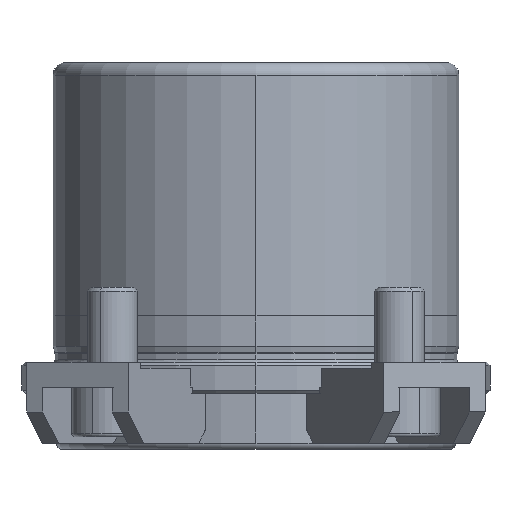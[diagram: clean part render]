
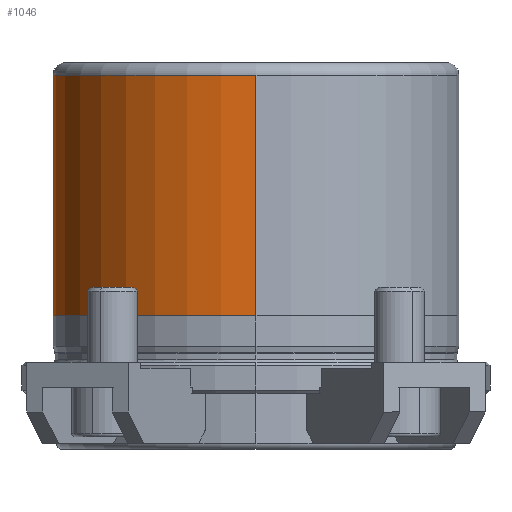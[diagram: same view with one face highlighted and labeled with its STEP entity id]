
A CAD part, left-side view. The second image highlights one B-rep face of the part: STEP entity #1046.
In plain terms, the highlighted cylindrical face has radius 32.495 mm (diameter 64.99 mm), a partial arc.
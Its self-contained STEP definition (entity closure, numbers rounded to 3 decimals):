
#949=CARTESIAN_POINT('',(0.0,0.,26.7));
#950=DIRECTION('',(0.0,0.,-1.0));
#951=DIRECTION('',(1.0,0.0,0.0));
#952=AXIS2_PLACEMENT_3D('',#949,#950,#951);
#953=CYLINDRICAL_SURFACE('',#952,32.495);
#954=CARTESIAN_POINT('',(32.495,0.,7.4));
#955=VERTEX_POINT('',#954);
#956=CARTESIAN_POINT('',(32.495,0.,17.4));
#957=VERTEX_POINT('',#956);
#958=CARTESIAN_POINT('',(32.495,0.,7.4));
#959=DIRECTION('',(0.0,0.0,1.0));
#960=VECTOR('',#959,10.);
#961=LINE('',#958,#960);
#962=EDGE_CURVE('',#955,#957,#961,.T.);
#963=ORIENTED_EDGE('',*,*,#962,.F.);
#964=CARTESIAN_POINT('',(-32.495,0.,7.4));
#965=VERTEX_POINT('',#964);
#966=CARTESIAN_POINT('',(0.0,0.,7.4));
#967=DIRECTION('',(0.0,0.0,-1.0));
#968=DIRECTION('',(1.0,0.0,0.0));
#969=AXIS2_PLACEMENT_3D('',#966,#967,#968);
#970=CIRCLE('',#969,32.495);
#971=EDGE_CURVE('',#965,#955,#970,.T.);
#972=ORIENTED_EDGE('',*,*,#971,.F.);
#973=CARTESIAN_POINT('',(-32.495,0.,46.0));
#974=VERTEX_POINT('',#973);
#975=CARTESIAN_POINT('',(-32.495,0.,7.4));
#976=DIRECTION('',(0.0,0.0,1.0));
#977=VECTOR('',#976,38.6);
#978=LINE('',#975,#977);
#979=EDGE_CURVE('',#965,#974,#978,.T.);
#980=ORIENTED_EDGE('',*,*,#979,.T.);
#981=CARTESIAN_POINT('',(0.0,32.495,46.));
#982=VERTEX_POINT('',#981);
#983=CARTESIAN_POINT('',(0.0,0.,46.0));
#984=DIRECTION('',(0.0,0.0,-1.0));
#985=DIRECTION('',(1.0,0.0,0.0));
#986=AXIS2_PLACEMENT_3D('',#983,#984,#985);
#987=CIRCLE('',#986,32.495);
#988=EDGE_CURVE('',#974,#982,#987,.T.);
#989=ORIENTED_EDGE('',*,*,#988,.T.);
#990=CARTESIAN_POINT('',(32.495,0.,46.0));
#991=VERTEX_POINT('',#990);
#992=CARTESIAN_POINT('',(0.0,0.,46.0));
#993=DIRECTION('',(0.0,0.0,-1.0));
#994=DIRECTION('',(1.0,0.0,0.0));
#995=AXIS2_PLACEMENT_3D('',#992,#993,#994);
#996=CIRCLE('',#995,32.495);
#997=EDGE_CURVE('',#982,#991,#996,.T.);
#998=ORIENTED_EDGE('',*,*,#997,.T.);
#999=CARTESIAN_POINT('',(32.495,0.,22.6));
#1000=VERTEX_POINT('',#999);
#1001=CARTESIAN_POINT('',(32.495,0.,22.6));
#1002=DIRECTION('',(0.0,0.0,1.0));
#1003=VECTOR('',#1002,23.4);
#1004=LINE('',#1001,#1003);
#1005=EDGE_CURVE('',#1000,#991,#1004,.T.);
#1006=ORIENTED_EDGE('',*,*,#1005,.F.);
#1007=CARTESIAN_POINT('',(32.495,0.,22.6));
#1008=CARTESIAN_POINT('',(32.495,0.163,22.6));
#1009=CARTESIAN_POINT('',(32.494,0.332,22.584));
#1010=CARTESIAN_POINT('',(32.489,0.668,22.519));
#1011=CARTESIAN_POINT('',(32.485,0.835,22.468));
#1012=CARTESIAN_POINT('',(32.475,1.155,22.336));
#1013=CARTESIAN_POINT('',(32.469,1.309,22.253));
#1014=CARTESIAN_POINT('',(32.456,1.593,22.062));
#1015=CARTESIAN_POINT('',(32.449,1.723,21.954));
#1016=CARTESIAN_POINT('',(32.436,1.954,21.723));
#1017=CARTESIAN_POINT('',(32.43,2.062,21.593));
#1018=CARTESIAN_POINT('',(32.417,2.253,21.309));
#1019=CARTESIAN_POINT('',(32.411,2.336,21.155));
#1020=CARTESIAN_POINT('',(32.401,2.468,20.835));
#1021=CARTESIAN_POINT('',(32.397,2.519,20.668));
#1022=CARTESIAN_POINT('',(32.392,2.584,20.332));
#1023=CARTESIAN_POINT('',(32.391,2.6,20.163));
#1024=CARTESIAN_POINT('',(32.391,2.6,19.837));
#1025=CARTESIAN_POINT('',(32.392,2.584,19.668));
#1026=CARTESIAN_POINT('',(32.397,2.519,19.332));
#1027=CARTESIAN_POINT('',(32.401,2.468,19.165));
#1028=CARTESIAN_POINT('',(32.411,2.336,18.845));
#1029=CARTESIAN_POINT('',(32.417,2.253,18.691));
#1030=CARTESIAN_POINT('',(32.43,2.062,18.407));
#1031=CARTESIAN_POINT('',(32.436,1.954,18.277));
#1032=CARTESIAN_POINT('',(32.449,1.723,18.046));
#1033=CARTESIAN_POINT('',(32.456,1.593,17.938));
#1034=CARTESIAN_POINT('',(32.469,1.309,17.747));
#1035=CARTESIAN_POINT('',(32.475,1.155,17.664));
#1036=CARTESIAN_POINT('',(32.485,0.835,17.532));
#1037=CARTESIAN_POINT('',(32.489,0.668,17.481));
#1038=CARTESIAN_POINT('',(32.494,0.332,17.416));
#1039=CARTESIAN_POINT('',(32.495,0.163,17.4));
#1040=CARTESIAN_POINT('',(32.495,0.,17.4));
#1041=B_SPLINE_CURVE_WITH_KNOTS('',3,(#1007,#1008,#1009,#1010,#1011,#1012,#1013,#1014,#1015,#1016,#1017,#1018,#1019,#1020,#1021,#1022,#1023,#1024,#1025,#1026,#1027,#1028,#1029,#1030,#1031,#1032,#1033,#1034,#1035,#1036,#1037,#1038,#1039,#1040),.UNSPECIFIED.,.F.,.U.,(4,2,2,2,2,2,2,2,2,2,2,2,2,2,2,2,4),(3.919,4.409,4.899,5.389,5.879,6.369,6.859,7.349,7.839,8.329,8.819,9.308,9.798,10.288,10.778,11.268,11.758),.UNSPECIFIED.);
#1042=EDGE_CURVE('',#1000,#957,#1041,.T.);
#1043=ORIENTED_EDGE('',*,*,#1042,.T.);
#1044=EDGE_LOOP('',(#963,#972,#980,#989,#998,#1006,#1043));
#1045=FACE_OUTER_BOUND('',#1044,.T.);
#1046=ADVANCED_FACE('',(#1045),#953,.T.);
